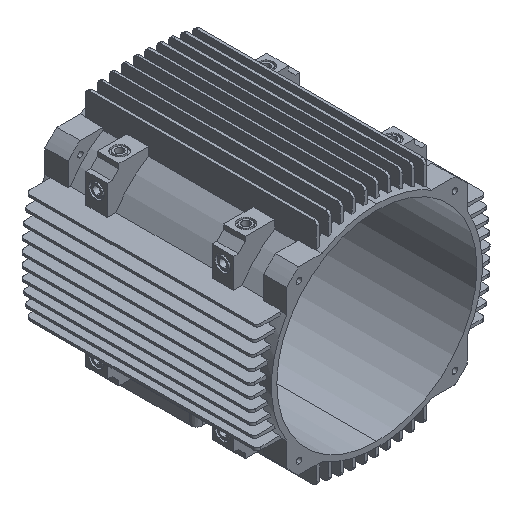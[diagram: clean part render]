
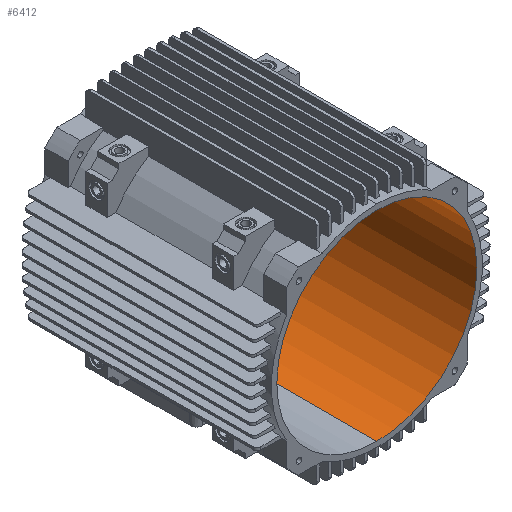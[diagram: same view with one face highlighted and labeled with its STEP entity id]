
A CAD part, isometric view. The second image highlights one B-rep face of the part: STEP entity #6412.
In plain terms, the highlighted cylindrical face has radius 130 mm (diameter 260 mm), a partial arc.
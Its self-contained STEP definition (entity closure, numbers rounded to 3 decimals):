
#141 = DIRECTION ( 'NONE',  ( 0., 1., 0. ) ) ;
#219 = ORIENTED_EDGE ( 'NONE', *, *, #17566, .F. ) ;
#345 = VECTOR ( 'NONE', #2656, 1000. ) ;
#883 = LINE ( 'NONE', #8139, #13253 ) ;
#2370 = EDGE_CURVE ( 'NONE', #7145, #11971, #18543, .T. ) ;
#2558 = EDGE_CURVE ( 'NONE', #21675, #9787, #15992, .T. ) ;
#2656 = DIRECTION ( 'NONE',  ( 0., 1., 0. ) ) ;
#4056 = EDGE_CURVE ( 'NONE', #7145, #21675, #19066, .T. ) ;
#5591 = ORIENTED_EDGE ( 'NONE', *, *, #2370, .F. ) ;
#5960 = DIRECTION ( 'NONE',  ( 0., 1., 0. ) ) ;
#6159 = DIRECTION ( 'NONE',  ( 0., 0., 1. ) ) ;
#6412 = ADVANCED_FACE ( 'NONE', ( #23733 ), #16445, .F. ) ;
#7145 = VERTEX_POINT ( 'NONE', #8444 ) ;
#7562 = DIRECTION ( 'NONE',  ( 0., 0., 1. ) ) ;
#8139 = CARTESIAN_POINT ( 'NONE',  ( 0., 66., -130. ) ) ;
#8444 = CARTESIAN_POINT ( 'NONE',  ( 0., -157., 130. ) ) ;
#9787 = VERTEX_POINT ( 'NONE', #23337 ) ;
#11971 = VERTEX_POINT ( 'NONE', #22100 ) ;
#13253 = VECTOR ( 'NONE', #5960, 1000. ) ;
#13945 = ORIENTED_EDGE ( 'NONE', *, *, #2558, .T. ) ;
#14482 = ORIENTED_EDGE ( 'NONE', *, *, #4056, .T. ) ;
#14924 = CARTESIAN_POINT ( 'NONE',  ( 0., 66., 130. ) ) ;
#15943 = CARTESIAN_POINT ( 'NONE',  ( 0., 66., 0. ) ) ;
#15992 = CIRCLE ( 'NONE', #23405, 130. ) ;
#16314 = CARTESIAN_POINT ( 'NONE',  ( 0., 157., 0. ) ) ;
#16445 = CYLINDRICAL_SURFACE ( 'NONE', #19236, 130. ) ;
#16919 = CARTESIAN_POINT ( 'NONE',  ( 0., 157., 130. ) ) ;
#17566 = EDGE_CURVE ( 'NONE', #11971, #9787, #883, .T. ) ;
#17681 = CARTESIAN_POINT ( 'NONE',  ( 0., -157., 0. ) ) ;
#18543 = CIRCLE ( 'NONE', #25790, 130. ) ;
#19066 = LINE ( 'NONE', #14924, #345 ) ;
#19236 = AXIS2_PLACEMENT_3D ( 'NONE', #15943, #26145, #21956 ) ;
#19700 = DIRECTION ( 'NONE',  ( 0., 1., 0. ) ) ;
#21675 = VERTEX_POINT ( 'NONE', #16919 ) ;
#21956 = DIRECTION ( 'NONE',  ( 0., 0., 1. ) ) ;
#22100 = CARTESIAN_POINT ( 'NONE',  ( 0., -157., -130. ) ) ;
#23337 = CARTESIAN_POINT ( 'NONE',  ( 0., 157., -130. ) ) ;
#23405 = AXIS2_PLACEMENT_3D ( 'NONE', #16314, #141, #6159 ) ;
#23733 = FACE_OUTER_BOUND ( 'NONE', #26040, .T. ) ;
#25790 = AXIS2_PLACEMENT_3D ( 'NONE', #17681, #19700, #7562 ) ;
#26040 = EDGE_LOOP ( 'NONE', ( #219, #5591, #14482, #13945 ) ) ;
#26145 = DIRECTION ( 'NONE',  ( 0., 1., 0. ) ) ;
